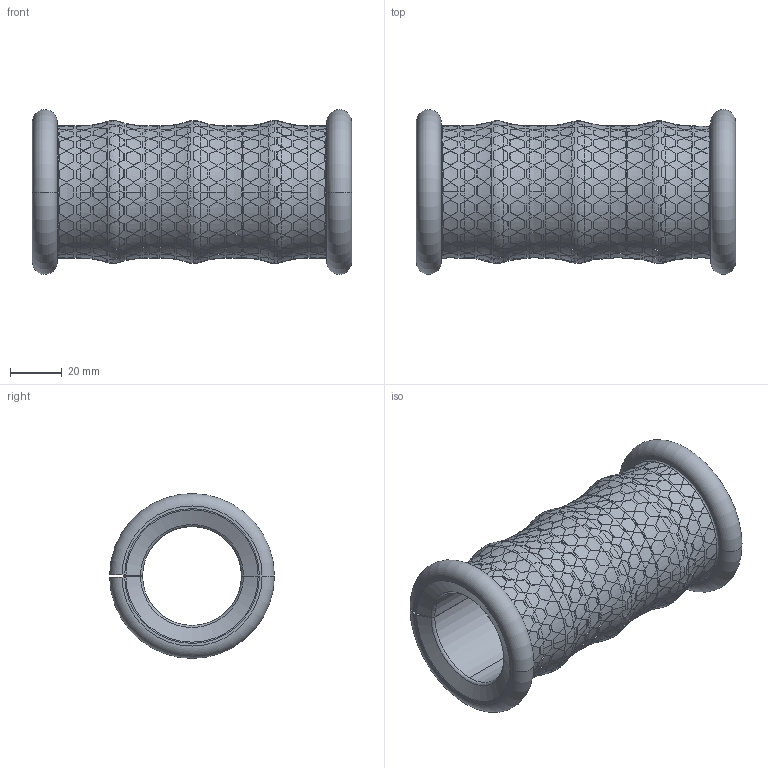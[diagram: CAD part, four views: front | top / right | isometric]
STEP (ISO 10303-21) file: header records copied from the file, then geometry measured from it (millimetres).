
FILE_DESCRIPTION (( 'STEP AP214' ), '1' );
FILE_NAME ('Rubber Grip.STEP', '2024-03-18T11:36:01', ( '' ), ( '' ), 'SwSTEP 2.0', 'SolidWorks 2023', '' );
FILE_SCHEMA (( 'AUTOMOTIVE_DESIGN' ));
Length unit declared in the file: inch
Products named in the file (1): Rubber Grip
Bounding box: 122.94 x 63.49 x 63.49 mm (x, y, z)
Surface area: 42171 mm2 (no closed solid volume)
Topology: 0 solids, 5 shells, 3455 faces, 9018 edges, 5675 vertices
Faces by surface type: bspline 3158, cylinder 190, plane 76, torus 17, cone 14
Entity records: 275580 total; most frequent: CARTESIAN_POINT 217372, ORIENTED_EDGE 18008, EDGE_CURVE 9004, B_SPLINE_CURVE_WITH_KNOTS 8038, VERTEX_POINT 5659, EDGE_LOOP 3563, FACE_OUTER_BOUND 3455, ADVANCED_FACE 3455
